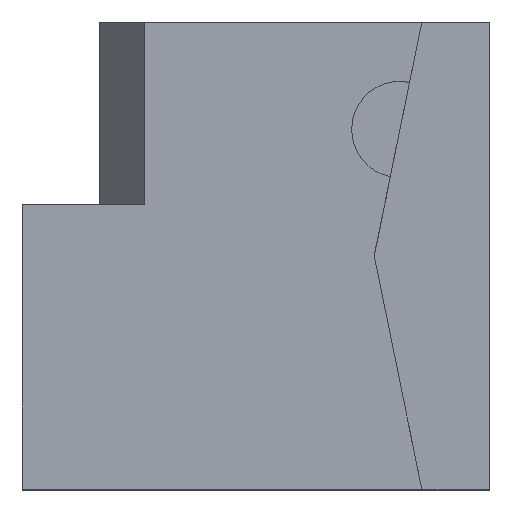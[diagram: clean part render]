
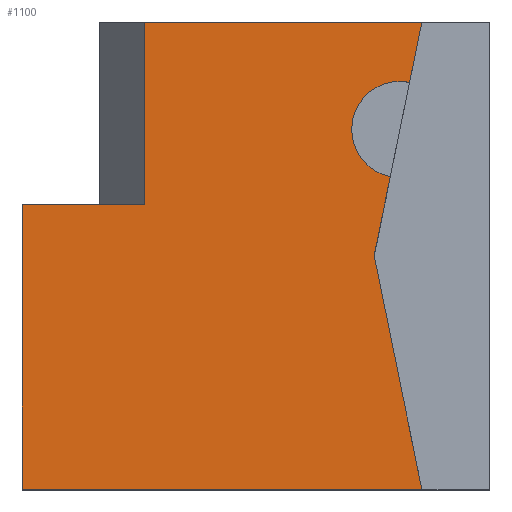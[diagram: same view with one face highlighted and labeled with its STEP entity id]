
A CAD part, top view. The second image highlights one B-rep face of the part: STEP entity #1100.
In plain terms, the highlighted planar face has unit normal (0, 0, 1).
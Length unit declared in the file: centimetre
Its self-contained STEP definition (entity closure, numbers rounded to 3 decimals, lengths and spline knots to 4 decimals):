
#18 = CARTESIAN_POINT ( 'NONE',  ( 854.9416, 1000., 1000. ) ) ;
#25 = VERTEX_POINT ( 'NONE', #1087 ) ;
#26 = ORIENTED_EDGE ( 'NONE', *, *, #1282, .T. ) ;
#29 = VERTEX_POINT ( 'NONE', #1077 ) ;
#43 = CARTESIAN_POINT ( 'NONE',  ( 261.6317, 609.264, 1000. ) ) ;
#57 = ORIENTED_EDGE ( 'NONE', *, *, #130, .F. ) ;
#58 = CIRCLE ( 'NONE', #915, 103.1171 ) ;
#59 = CARTESIAN_POINT ( 'NONE',  ( 752.867, 500., 1000. ) ) ;
#81 = VECTOR ( 'NONE', #646, 100. ) ;
#94 = DIRECTION ( 'NONE',  ( 1., 0., 0. ) ) ;
#106 = CARTESIAN_POINT ( 'NONE',  ( 0., 609.264, 1000. ) ) ;
#114 = CARTESIAN_POINT ( 'NONE',  ( 787.344, 668.8812, 1000. ) ) ;
#130 = EDGE_CURVE ( 'NONE', #1097, #29, #326, .T. ) ;
#163 = ORIENTED_EDGE ( 'NONE', *, *, #1098, .F. ) ;
#183 = AXIS2_PLACEMENT_3D ( 'NONE', #929, #1509, #94 ) ;
#196 = LINE ( 'NONE', #650, #285 ) ;
#205 = ORIENTED_EDGE ( 'NONE', *, *, #1311, .F. ) ;
#216 = DIRECTION ( 'NONE',  ( 1., 0., 0. ) ) ;
#254 = LINE ( 'NONE', #106, #762 ) ;
#285 = VECTOR ( 'NONE', #1281, 100. ) ;
#326 = LINE ( 'NONE', #59, #682 ) ;
#339 = EDGE_CURVE ( 'NONE', #732, #393, #254, .T. ) ;
#349 = ORIENTED_EDGE ( 'NONE', *, *, #754, .T. ) ;
#376 = CARTESIAN_POINT ( 'NONE',  ( 854.9416, 1000., 1000. ) ) ;
#393 = VERTEX_POINT ( 'NONE', #1045 ) ;
#435 = VERTEX_POINT ( 'NONE', #114 ) ;
#465 = EDGE_LOOP ( 'NONE', ( #822, #976, #349, #845, #57, #163, #1186, #205, #26 ) ) ;
#468 = FACE_OUTER_BOUND ( 'NONE', #465, .T. ) ;
#538 = EDGE_CURVE ( 'NONE', #727, #29, #1270, .T. ) ;
#577 = CARTESIAN_POINT ( 'NONE',  ( 0., 0., 1000. ) ) ;
#627 = LINE ( 'NONE', #1101, #1217 ) ;
#646 = DIRECTION ( 'NONE',  ( 0., 1., 0. ) ) ;
#650 = CARTESIAN_POINT ( 'NONE',  ( 854.9416, 1000., 1000. ) ) ;
#682 = VECTOR ( 'NONE', #1248, 100. ) ;
#710 = CARTESIAN_POINT ( 'NONE',  ( 0., 0., 1000. ) ) ;
#727 = VERTEX_POINT ( 'NONE', #710 ) ;
#732 = VERTEX_POINT ( 'NONE', #1192 ) ;
#751 = CARTESIAN_POINT ( 'NONE',  ( 261.6317, 1000., 1000. ) ) ;
#754 = EDGE_CURVE ( 'NONE', #732, #727, #627, .T. ) ;
#758 = VERTEX_POINT ( 'NONE', #751 ) ;
#762 = VECTOR ( 'NONE', #1052, 100. ) ;
#788 = EDGE_CURVE ( 'NONE', #393, #758, #1490, .T. ) ;
#822 = ORIENTED_EDGE ( 'NONE', *, *, #788, .F. ) ;
#835 = DIRECTION ( 'NONE',  ( -0.2, -0.98, 0. ) ) ;
#845 = ORIENTED_EDGE ( 'NONE', *, *, #538, .T. ) ;
#889 = VECTOR ( 'NONE', #1298, 100. ) ;
#915 = AXIS2_PLACEMENT_3D ( 'NONE', #988, #1347, #994 ) ;
#929 = CARTESIAN_POINT ( 'NONE',  ( 0., 0., 1000. ) ) ;
#976 = ORIENTED_EDGE ( 'NONE', *, *, #339, .F. ) ;
#980 = EDGE_CURVE ( 'NONE', #25, #435, #58, .T. ) ;
#988 = CARTESIAN_POINT ( 'NONE',  ( 807.9698, 769.9144, 1000. ) ) ;
#990 = DIRECTION ( 'NONE',  ( 0., -1., 0. ) ) ;
#994 = DIRECTION ( 'NONE',  ( 1., 0., 0. ) ) ;
#1040 = PLANE ( 'NONE',  #183 ) ;
#1045 = CARTESIAN_POINT ( 'NONE',  ( 261.6317, 609.264, 1000. ) ) ;
#1052 = DIRECTION ( 'NONE',  ( 1., 0., 0. ) ) ;
#1070 = LINE ( 'NONE', #1197, #889 ) ;
#1077 = CARTESIAN_POINT ( 'NONE',  ( 854.9416, 0., 1000. ) ) ;
#1087 = CARTESIAN_POINT ( 'NONE',  ( 828.5956, 870.9476, 1000. ) ) ;
#1097 = VERTEX_POINT ( 'NONE', #1251 ) ;
#1098 = EDGE_CURVE ( 'NONE', #435, #1097, #196, .T. ) ;
#1100 = ADVANCED_FACE ( 'NONE', ( #468 ), #1040, .T. ) ;
#1101 = CARTESIAN_POINT ( 'NONE',  ( 0., 1000., 1000. ) ) ;
#1186 = ORIENTED_EDGE ( 'NONE', *, *, #980, .F. ) ;
#1192 = CARTESIAN_POINT ( 'NONE',  ( 0., 609.264, 1000. ) ) ;
#1197 = CARTESIAN_POINT ( 'NONE',  ( 0., 1000., 1000. ) ) ;
#1217 = VECTOR ( 'NONE', #990, 100. ) ;
#1240 = VECTOR ( 'NONE', #216, 100. ) ;
#1248 = DIRECTION ( 'NONE',  ( 0.2, -0.98, 0. ) ) ;
#1251 = CARTESIAN_POINT ( 'NONE',  ( 752.867, 500., 1000. ) ) ;
#1265 = VECTOR ( 'NONE', #835, 100. ) ;
#1270 = LINE ( 'NONE', #577, #1240 ) ;
#1281 = DIRECTION ( 'NONE',  ( -0.2, -0.98, 0. ) ) ;
#1282 = EDGE_CURVE ( 'NONE', #1286, #758, #1070, .T. ) ;
#1286 = VERTEX_POINT ( 'NONE', #18 ) ;
#1298 = DIRECTION ( 'NONE',  ( -1., 0., 0. ) ) ;
#1311 = EDGE_CURVE ( 'NONE', #1286, #25, #1432, .T. ) ;
#1347 = DIRECTION ( 'NONE',  ( 0., 0., 1. ) ) ;
#1432 = LINE ( 'NONE', #376, #1265 ) ;
#1490 = LINE ( 'NONE', #43, #81 ) ;
#1509 = DIRECTION ( 'NONE',  ( 0., 0., 1. ) ) ;
